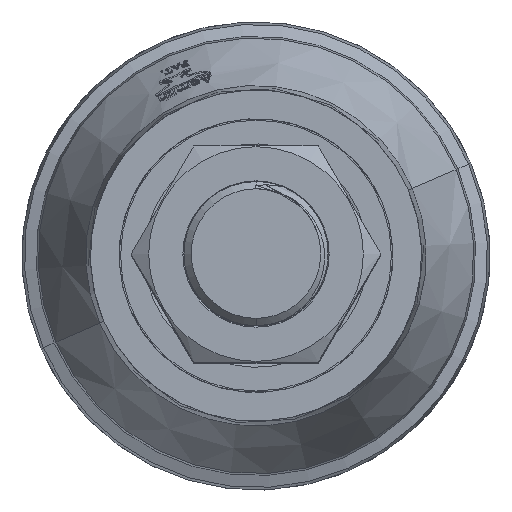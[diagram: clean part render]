
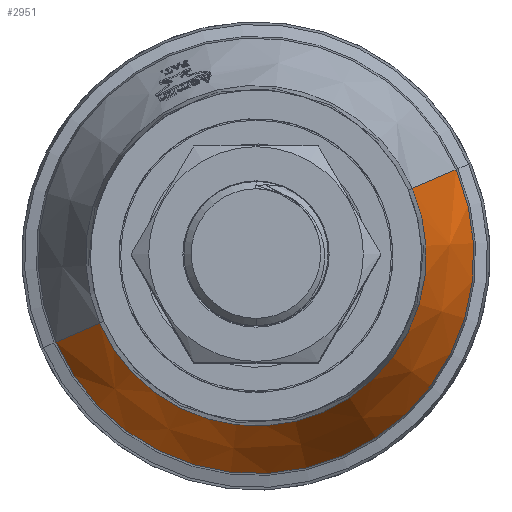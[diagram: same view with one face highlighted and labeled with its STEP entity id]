
A CAD part, top view. The second image highlights one B-rep face of the part: STEP entity #2951.
In plain terms, the highlighted conical face has half-angle 25 degrees and reference radius 23.629 mm.
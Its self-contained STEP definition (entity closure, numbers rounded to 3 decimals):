
#516 = DIRECTION ( 'NONE',  ( -0.423, 0., -0.906 ) ) ;
#1044 = EDGE_LOOP ( 'NONE', ( #22317, #36406, #8394, #11530 ) ) ;
#2545 = DIRECTION ( 'NONE',  ( -0.423, 0., 0.906 ) ) ;
#2757 = CONICAL_SURFACE ( 'NONE', #9156, 23.629, 0.436 ) ;
#2951 = ADVANCED_FACE ( 'NONE', ( #11115 ), #2757, .T. ) ;
#5370 = CARTESIAN_POINT ( 'NONE',  ( -30.24, 0., 9.324 ) ) ;
#5424 = CARTESIAN_POINT ( 'NONE',  ( -26.934, 0., 16.412 ) ) ;
#7190 = DIRECTION ( 'NONE',  ( 0., 0., 1. ) ) ;
#7610 = VECTOR ( 'NONE', #2545, 1000. ) ;
#8394 = ORIENTED_EDGE ( 'NONE', *, *, #9497, .F. ) ;
#9156 = AXIS2_PLACEMENT_3D ( 'NONE', #30251, #33088, #10640 ) ;
#9187 = CARTESIAN_POINT ( 'NONE',  ( 0., 0., 9.324 ) ) ;
#9497 = EDGE_CURVE ( 'NONE', #17565, #24563, #29729, .T. ) ;
#10640 = DIRECTION ( 'NONE',  ( -1., 0., 0. ) ) ;
#11115 = FACE_OUTER_BOUND ( 'NONE', #1044, .T. ) ;
#11530 = ORIENTED_EDGE ( 'NONE', *, *, #20943, .F. ) ;
#11775 = VECTOR ( 'NONE', #516, 1000. ) ;
#12030 = DIRECTION ( 'NONE',  ( -1., 0., 0. ) ) ;
#13510 = CARTESIAN_POINT ( 'NONE',  ( -23.629, 0., 23.5 ) ) ;
#14990 = CARTESIAN_POINT ( 'NONE',  ( 23.629, 0., 23.5 ) ) ;
#17565 = VERTEX_POINT ( 'NONE', #13510 ) ;
#19269 = CARTESIAN_POINT ( 'NONE',  ( 26.934, 0., 16.412 ) ) ;
#20943 = EDGE_CURVE ( 'NONE', #33476, #17565, #25534, .T. ) ;
#22317 = ORIENTED_EDGE ( 'NONE', *, *, #36270, .F. ) ;
#22504 = LINE ( 'NONE', #19269, #7610 ) ;
#22708 = CARTESIAN_POINT ( 'NONE',  ( 30.24, 0., 9.324 ) ) ;
#23620 = CIRCLE ( 'NONE', #31857, 30.24 ) ;
#23672 = VERTEX_POINT ( 'NONE', #22708 ) ;
#23964 = CARTESIAN_POINT ( 'NONE',  ( 0., 0., 23.5 ) ) ;
#24563 = VERTEX_POINT ( 'NONE', #5370 ) ;
#25534 = CIRCLE ( 'NONE', #28028, 23.629 ) ;
#25697 = EDGE_CURVE ( 'NONE', #24563, #23672, #23620, .T. ) ;
#26814 = DIRECTION ( 'NONE',  ( -1., 0., 0. ) ) ;
#28028 = AXIS2_PLACEMENT_3D ( 'NONE', #23964, #7190, #26814 ) ;
#28805 = DIRECTION ( 'NONE',  ( 0., 0., -1. ) ) ;
#29729 = LINE ( 'NONE', #5424, #11775 ) ;
#30251 = CARTESIAN_POINT ( 'NONE',  ( 0., 0., 23.5 ) ) ;
#31857 = AXIS2_PLACEMENT_3D ( 'NONE', #9187, #28805, #12030 ) ;
#33088 = DIRECTION ( 'NONE',  ( 0., 0., -1. ) ) ;
#33476 = VERTEX_POINT ( 'NONE', #14990 ) ;
#36270 = EDGE_CURVE ( 'NONE', #23672, #33476, #22504, .T. ) ;
#36406 = ORIENTED_EDGE ( 'NONE', *, *, #25697, .F. ) ;
